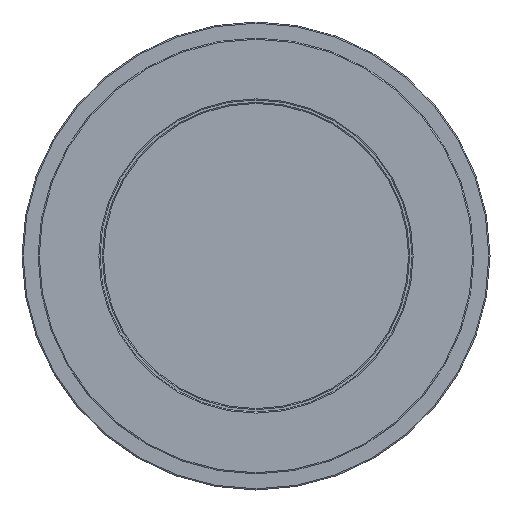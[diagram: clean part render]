
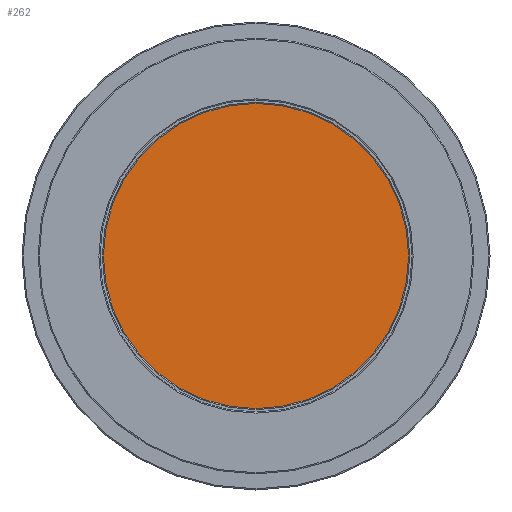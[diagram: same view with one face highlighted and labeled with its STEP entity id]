
A CAD part, front view. The second image highlights one B-rep face of the part: STEP entity #262.
In plain terms, the highlighted planar face has unit normal (0, -1, 0).
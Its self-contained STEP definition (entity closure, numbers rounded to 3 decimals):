
#262=ADVANCED_FACE('',(#3618),#3620,.T.);
#3618=FACE_BOUND('',#3619,.T.);
#3619=EDGE_LOOP('',(#4414,#4415));
#3620=PLANE('',#3621);
#3621=AXIS2_PLACEMENT_3D('',#3622,#3623,#3624);
#3622=CARTESIAN_POINT('',(0.,-31.5,0.));
#3623=DIRECTION('',(0.,-1.,0.));
#3624=DIRECTION('',(0.,0.,1.));
#4414=ORIENTED_EDGE('',*,*,#4810,.F.);
#4415=ORIENTED_EDGE('',*,*,#4809,.F.);
#4809=EDGE_CURVE('',#5386,#5387,#5388,.T.);
#4810=EDGE_CURVE('',#5387,#5386,#5389,.T.);
#5386=VERTEX_POINT('',#10437);
#5387=VERTEX_POINT('',#10438);
#5388=CIRCLE('',#10439,66.5);
#5389=CIRCLE('',#10443,66.5);
#10437=CARTESIAN_POINT('',(0.,-31.5,66.5));
#10438=CARTESIAN_POINT('',(0.,-31.5,-66.5));
#10439=AXIS2_PLACEMENT_3D('',#10440,#10441,#10442);
#10440=CARTESIAN_POINT('',(0.,-31.5,0.));
#10441=DIRECTION('',(0.,1.,0.));
#10442=DIRECTION('',(0.,0.,1.));
#10443=AXIS2_PLACEMENT_3D('',#10444,#10445,#10446);
#10444=CARTESIAN_POINT('',(0.,-31.5,0.));
#10445=DIRECTION('',(0.,1.,0.));
#10446=DIRECTION('',(0.,0.,-1.));
